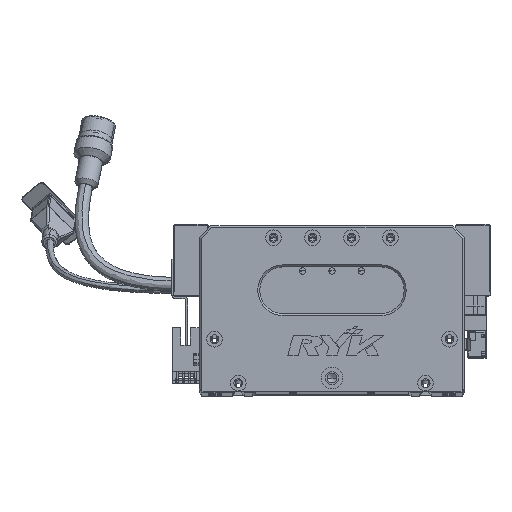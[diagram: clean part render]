
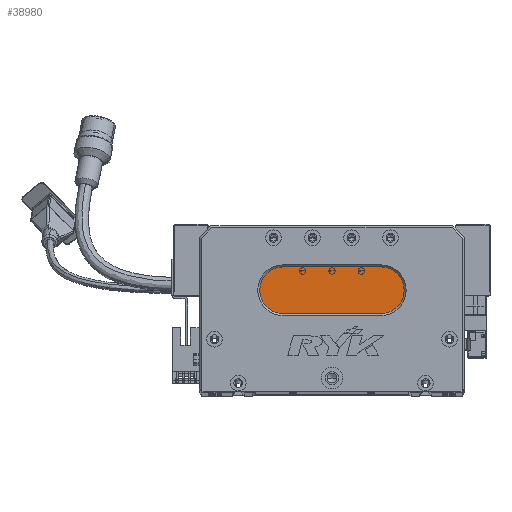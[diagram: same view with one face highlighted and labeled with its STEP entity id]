
A CAD part, top view. The second image highlights one B-rep face of the part: STEP entity #38980.
In plain terms, the highlighted planar face has unit normal (0, 0, 1) as drawn and (0, 0, -1) by its records, which use the part's own axes.
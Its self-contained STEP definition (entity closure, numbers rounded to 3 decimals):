
#5011 = LINE ( 'NONE', #56597, #20769 ) ;
#7119 = VERTEX_POINT ( 'NONE', #73291 ) ;
#10792 = DIRECTION ( 'NONE',  ( 0., 0., -1. ) ) ;
#13234 = DIRECTION ( 'NONE',  ( 0., 0., -1. ) ) ;
#15439 = LINE ( 'NONE', #74326, #22842 ) ;
#15655 = DIRECTION ( 'NONE',  ( -1., 0., 0. ) ) ;
#15935 = PLANE ( 'NONE',  #36711 ) ;
#19531 = EDGE_CURVE ( 'NONE', #7119, #63457, #60164, .T. ) ;
#20769 = VECTOR ( 'NONE', #70288, 1000. ) ;
#22842 = VECTOR ( 'NONE', #79575, 1000. ) ;
#27183 = CARTESIAN_POINT ( 'NONE',  ( 31., 52., 13. ) ) ;
#27390 = FACE_OUTER_BOUND ( 'NONE', #38423, .T. ) ;
#32521 = ORIENTED_EDGE ( 'NONE', *, *, #19531, .T. ) ;
#32579 = CIRCLE ( 'NONE', #33400, 12. ) ;
#33400 = AXIS2_PLACEMENT_3D ( 'NONE', #82176, #55658, #15655 ) ;
#34384 = EDGE_CURVE ( 'NONE', #63457, #38702, #75083, .T. ) ;
#35066 = EDGE_CURVE ( 'NONE', #38702, #55443, #15439, .T. ) ;
#36711 = AXIS2_PLACEMENT_3D ( 'NONE', #56998, #38598, #66914 ) ;
#38423 = EDGE_LOOP ( 'NONE', ( #52797, #58512, #32521, #81068, #82620 ) ) ;
#38598 = DIRECTION ( 'NONE',  ( 0., 0., -1. ) ) ;
#38702 = VERTEX_POINT ( 'NONE', #53371 ) ;
#38980 = ADVANCED_FACE ( 'NONE', ( #27390 ), #15935, .T. ) ;
#39229 = EDGE_CURVE ( 'NONE', #55443, #47627, #32579, .T. ) ;
#41627 = CARTESIAN_POINT ( 'NONE',  ( 93., 40., 13. ) ) ;
#45902 = EDGE_CURVE ( 'NONE', #47627, #7119, #5011, .T. ) ;
#47627 = VERTEX_POINT ( 'NONE', #41627 ) ;
#50817 = CARTESIAN_POINT ( 'NONE',  ( 43., 52., 13. ) ) ;
#52797 = ORIENTED_EDGE ( 'NONE', *, *, #39229, .T. ) ;
#53217 = AXIS2_PLACEMENT_3D ( 'NONE', #50817, #10792, #64249 ) ;
#53266 = CARTESIAN_POINT ( 'NONE',  ( 43., 52., 13. ) ) ;
#53371 = CARTESIAN_POINT ( 'NONE',  ( 43., 64., 13. ) ) ;
#55443 = VERTEX_POINT ( 'NONE', #57993 ) ;
#55658 = DIRECTION ( 'NONE',  ( 0., 0., -1. ) ) ;
#56597 = CARTESIAN_POINT ( 'NONE',  ( 93., 40., 13. ) ) ;
#56998 = CARTESIAN_POINT ( 'NONE',  ( 93., 52., 13. ) ) ;
#57993 = CARTESIAN_POINT ( 'NONE',  ( 93., 64., 13. ) ) ;
#58512 = ORIENTED_EDGE ( 'NONE', *, *, #45902, .T. ) ;
#60164 = CIRCLE ( 'NONE', #63571, 12. ) ;
#63457 = VERTEX_POINT ( 'NONE', #27183 ) ;
#63571 = AXIS2_PLACEMENT_3D ( 'NONE', #53266, #13234, #66118 ) ;
#64249 = DIRECTION ( 'NONE',  ( -1., 0., 0. ) ) ;
#66118 = DIRECTION ( 'NONE',  ( -1., 0., 0. ) ) ;
#66914 = DIRECTION ( 'NONE',  ( -1., 0., 0. ) ) ;
#70288 = DIRECTION ( 'NONE',  ( -1., 0., 0. ) ) ;
#73291 = CARTESIAN_POINT ( 'NONE',  ( 43., 40., 13. ) ) ;
#74326 = CARTESIAN_POINT ( 'NONE',  ( 93., 64., 13. ) ) ;
#75083 = CIRCLE ( 'NONE', #53217, 12. ) ;
#79575 = DIRECTION ( 'NONE',  ( 1., 0., 0. ) ) ;
#81068 = ORIENTED_EDGE ( 'NONE', *, *, #34384, .T. ) ;
#82176 = CARTESIAN_POINT ( 'NONE',  ( 93., 52., 13. ) ) ;
#82620 = ORIENTED_EDGE ( 'NONE', *, *, #35066, .T. ) ;
